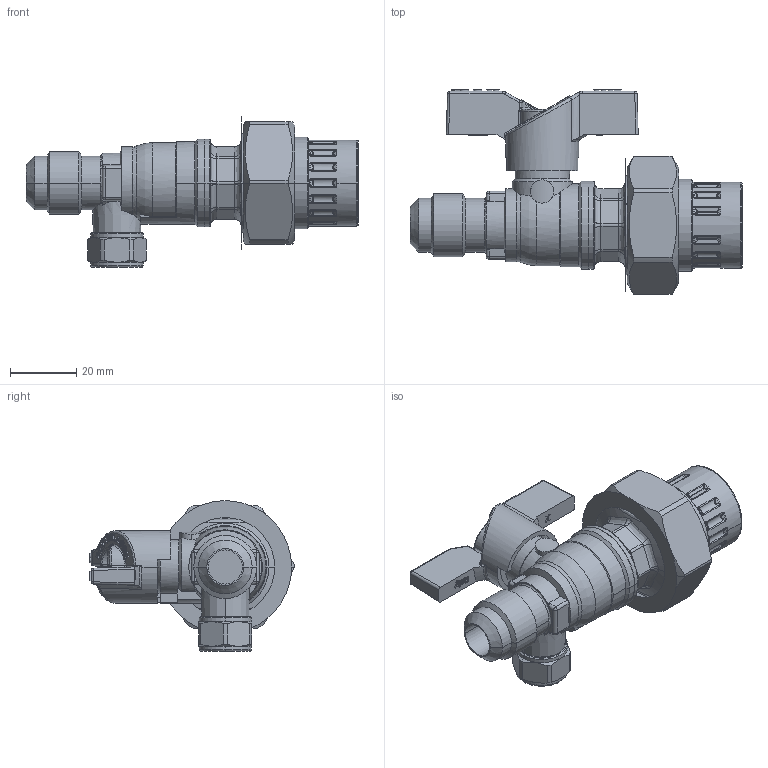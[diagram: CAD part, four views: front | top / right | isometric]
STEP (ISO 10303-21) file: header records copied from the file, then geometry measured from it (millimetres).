
FILE_DESCRIPTION((''),'2;1');
FILE_NAME('T203FLU_1-2_ASM','2021-08-03T14:46:57',('Sergio.Dandrea'),(''),'CREO PARAMETRIC BY PTC INC, 2021063','CREO PARAMETRIC BY PTC INC, 2021063','');
FILE_SCHEMA(('CONFIG_CONTROL_DESIGN'));
Products named in the file (18): 88315; SEDE_PTFE_F12; 87057; OR_107_AF0; OR_107_AF1; ASTA_T203_1-2_O-RING_ASM; 88402; 11104; 16243; 11108; 11109; 11107; 87046; 87131; 00191; 87218; 87058; T203FLU_1-2_ASM
Assembly tree (18 placements, depth 3):
  T203FLU_1-2_ASM
    88315
    SEDE_PTFE_F12  x2
    ASTA_T203_1-2_O-RING_ASM
      87057
      OR_107_AF0
      OR_107_AF1
    88402
    11104
    16243
    11108
    11109
    11107
    87046
    87131
    00191
    87218
    87058
Bounding box: 100.4 x 61.9 x 45.57 mm (x, y, z)
Volume: 48821.5 mm3; surface area: 40319.9 mm2
Topology: 17 solids, 25 shells, 1519 faces, 3770 edges, 2367 vertices
Faces by surface type: plane 433, extrusion 355, cylinder 263, bspline 185, cone 146, torus 97, sphere 24, revolution 16
Entity records: 58598 total; most frequent: CARTESIAN_POINT 24878, ORIENTED_EDGE 7442, DIRECTION 5795, EDGE_CURVE 3738, VERTEX_POINT 2351, AXIS2_PLACEMENT_3D 1939, VECTOR 1901, B_SPLINE_CURVE_WITH_KNOTS 1626
